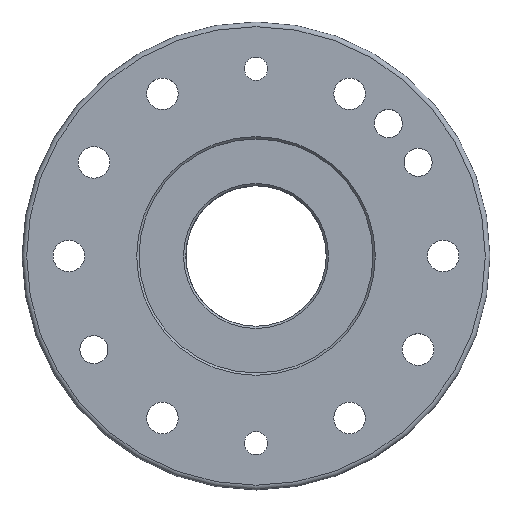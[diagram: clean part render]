
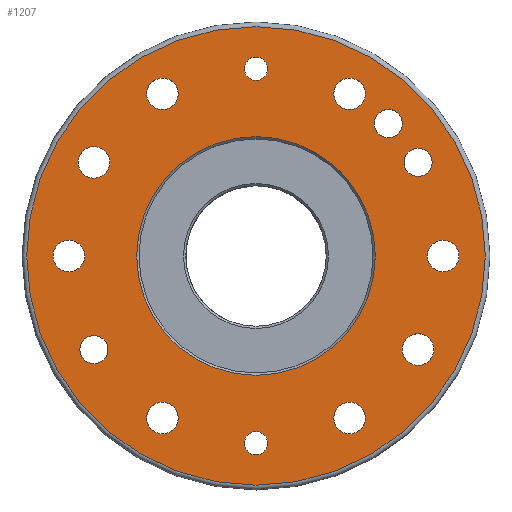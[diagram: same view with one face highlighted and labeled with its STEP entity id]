
A CAD part, top view. The second image highlights one B-rep face of the part: STEP entity #1207.
In plain terms, the highlighted planar face has unit normal (0, 0, 1).
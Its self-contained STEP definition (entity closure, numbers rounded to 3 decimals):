
#68=FACE_BOUND('',#217,.T.);
#69=FACE_BOUND('',#218,.T.);
#70=FACE_BOUND('',#219,.T.);
#71=FACE_BOUND('',#220,.T.);
#72=FACE_BOUND('',#221,.T.);
#73=FACE_BOUND('',#222,.T.);
#74=FACE_BOUND('',#223,.T.);
#75=FACE_BOUND('',#224,.T.);
#76=FACE_BOUND('',#225,.T.);
#77=FACE_BOUND('',#226,.T.);
#78=FACE_BOUND('',#227,.T.);
#79=FACE_BOUND('',#228,.T.);
#80=FACE_BOUND('',#229,.T.);
#81=FACE_BOUND('',#230,.T.);
#92=PLANE('',#1359);
#135=FACE_OUTER_BOUND('',#216,.T.);
#216=EDGE_LOOP('',(#917,#918));
#217=EDGE_LOOP('',(#919));
#218=EDGE_LOOP('',(#920));
#219=EDGE_LOOP('',(#921));
#220=EDGE_LOOP('',(#922));
#221=EDGE_LOOP('',(#923));
#222=EDGE_LOOP('',(#924));
#223=EDGE_LOOP('',(#925));
#224=EDGE_LOOP('',(#926));
#225=EDGE_LOOP('',(#927));
#226=EDGE_LOOP('',(#928));
#227=EDGE_LOOP('',(#929));
#228=EDGE_LOOP('',(#930));
#229=EDGE_LOOP('',(#931));
#230=EDGE_LOOP('',(#932));
#359=CIRCLE('',#1258,6.05);
#362=CIRCLE('',#1262,6.);
#365=CIRCLE('',#1266,6.);
#371=CIRCLE('',#1275,6.75);
#377=CIRCLE('',#1284,6.75);
#383=CIRCLE('',#1293,6.75);
#389=CIRCLE('',#1302,6.75);
#395=CIRCLE('',#1311,6.75);
#401=CIRCLE('',#1320,6.75);
#407=CIRCLE('',#1329,6.75);
#413=CIRCLE('',#1338,6.75);
#428=CIRCLE('',#1357,98.);
#429=CIRCLE('',#1358,98.);
#430=CIRCLE('',#1360,51.);
#431=CIRCLE('',#1361,5.);
#432=CIRCLE('',#1362,5.);
#458=VERTEX_POINT('',#1798);
#461=VERTEX_POINT('',#1806);
#464=VERTEX_POINT('',#1814);
#470=VERTEX_POINT('',#1831);
#476=VERTEX_POINT('',#1848);
#482=VERTEX_POINT('',#1865);
#488=VERTEX_POINT('',#1882);
#494=VERTEX_POINT('',#1899);
#500=VERTEX_POINT('',#1916);
#506=VERTEX_POINT('',#1933);
#512=VERTEX_POINT('',#1950);
#525=VERTEX_POINT('',#1983);
#526=VERTEX_POINT('',#1985);
#527=VERTEX_POINT('',#1989);
#528=VERTEX_POINT('',#1991);
#529=VERTEX_POINT('',#1993);
#581=EDGE_CURVE('',#458,#458,#359,.T.);
#585=EDGE_CURVE('',#461,#461,#362,.T.);
#589=EDGE_CURVE('',#464,#464,#365,.T.);
#597=EDGE_CURVE('',#470,#470,#371,.T.);
#605=EDGE_CURVE('',#476,#476,#377,.T.);
#613=EDGE_CURVE('',#482,#482,#383,.T.);
#621=EDGE_CURVE('',#488,#488,#389,.T.);
#629=EDGE_CURVE('',#494,#494,#395,.T.);
#637=EDGE_CURVE('',#500,#500,#401,.T.);
#645=EDGE_CURVE('',#506,#506,#407,.T.);
#653=EDGE_CURVE('',#512,#512,#413,.T.);
#669=EDGE_CURVE('',#525,#526,#428,.T.);
#670=EDGE_CURVE('',#526,#525,#429,.T.);
#671=EDGE_CURVE('',#527,#527,#430,.T.);
#672=EDGE_CURVE('',#528,#528,#431,.T.);
#673=EDGE_CURVE('',#529,#529,#432,.T.);
#917=ORIENTED_EDGE('',*,*,#670,.F.);
#918=ORIENTED_EDGE('',*,*,#669,.F.);
#919=ORIENTED_EDGE('',*,*,#581,.T.);
#920=ORIENTED_EDGE('',*,*,#585,.T.);
#921=ORIENTED_EDGE('',*,*,#589,.T.);
#922=ORIENTED_EDGE('',*,*,#597,.T.);
#923=ORIENTED_EDGE('',*,*,#605,.T.);
#924=ORIENTED_EDGE('',*,*,#613,.T.);
#925=ORIENTED_EDGE('',*,*,#621,.T.);
#926=ORIENTED_EDGE('',*,*,#629,.T.);
#927=ORIENTED_EDGE('',*,*,#637,.T.);
#928=ORIENTED_EDGE('',*,*,#645,.T.);
#929=ORIENTED_EDGE('',*,*,#653,.T.);
#930=ORIENTED_EDGE('',*,*,#671,.F.);
#931=ORIENTED_EDGE('',*,*,#672,.T.);
#932=ORIENTED_EDGE('',*,*,#673,.T.);
#1207=ADVANCED_FACE('',(#135,#68,#69,#70,#71,#72,#73,#74,#75,#76,#77,#78,
#79,#80,#81),#92,.T.);
#1258=AXIS2_PLACEMENT_3D('',#1800,#1426,#1427);
#1262=AXIS2_PLACEMENT_3D('',#1808,#1435,#1436);
#1266=AXIS2_PLACEMENT_3D('',#1816,#1444,#1445);
#1275=AXIS2_PLACEMENT_3D('',#1833,#1464,#1465);
#1284=AXIS2_PLACEMENT_3D('',#1850,#1484,#1485);
#1293=AXIS2_PLACEMENT_3D('',#1867,#1504,#1505);
#1302=AXIS2_PLACEMENT_3D('',#1884,#1524,#1525);
#1311=AXIS2_PLACEMENT_3D('',#1901,#1544,#1545);
#1320=AXIS2_PLACEMENT_3D('',#1918,#1564,#1565);
#1329=AXIS2_PLACEMENT_3D('',#1935,#1584,#1585);
#1338=AXIS2_PLACEMENT_3D('',#1952,#1604,#1605);
#1357=AXIS2_PLACEMENT_3D('',#1986,#1643,#1644);
#1358=AXIS2_PLACEMENT_3D('',#1987,#1645,#1646);
#1359=AXIS2_PLACEMENT_3D('',#1988,#1647,#1648);
#1360=AXIS2_PLACEMENT_3D('',#1990,#1649,#1650);
#1361=AXIS2_PLACEMENT_3D('',#1992,#1651,#1652);
#1362=AXIS2_PLACEMENT_3D('',#1994,#1653,#1654);
#1426=DIRECTION('center_axis',(0.,0.,
-1.));
#1427=DIRECTION('ref_axis',(0.,1.,0.));
#1435=DIRECTION('center_axis',(0.,0.,
-1.));
#1436=DIRECTION('ref_axis',(1.,0.,0.));
#1444=DIRECTION('center_axis',(0.,0.,
-1.));
#1445=DIRECTION('ref_axis',(1.,0.,0.));
#1464=DIRECTION('center_axis',(0.,0.,
-1.));
#1465=DIRECTION('ref_axis',(1.,0.,0.));
#1484=DIRECTION('center_axis',(0.,0.,
-1.));
#1485=DIRECTION('ref_axis',(1.,0.,0.));
#1504=DIRECTION('center_axis',(0.,0.,
-1.));
#1505=DIRECTION('ref_axis',(1.,0.,0.));
#1524=DIRECTION('center_axis',(0.,0.,
-1.));
#1525=DIRECTION('ref_axis',(1.,0.,0.));
#1544=DIRECTION('center_axis',(0.,0.,
-1.));
#1545=DIRECTION('ref_axis',(1.,0.,0.));
#1564=DIRECTION('center_axis',(0.,0.,
-1.));
#1565=DIRECTION('ref_axis',(1.,0.,0.));
#1584=DIRECTION('center_axis',(0.,0.,
-1.));
#1585=DIRECTION('ref_axis',(1.,0.,0.));
#1604=DIRECTION('center_axis',(0.,0.,
-1.));
#1605=DIRECTION('ref_axis',(1.,0.,0.));
#1643=DIRECTION('center_axis',(0.,0.,
-1.));
#1644=DIRECTION('ref_axis',(0.,1.,0.));
#1645=DIRECTION('center_axis',(0.,0.,
-1.));
#1646=DIRECTION('ref_axis',(0.,1.,0.));
#1647=DIRECTION('center_axis',(0.,0.,
1.));
#1648=DIRECTION('ref_axis',(-1.,0.,0.));
#1649=DIRECTION('center_axis',(0.,0.,
1.));
#1650=DIRECTION('ref_axis',(0.,1.,0.));
#1651=DIRECTION('center_axis',(0.,0.,
-1.));
#1652=DIRECTION('ref_axis',(-1.,0.,0.));
#1653=DIRECTION('center_axis',(0.,0.,
-1.));
#1654=DIRECTION('ref_axis',(-1.,0.,0.));
#1798=CARTESIAN_POINT('',(56.569,50.519,209.438));
#1800=CARTESIAN_POINT('Origin',(56.569,56.569,209.438));
#1806=CARTESIAN_POINT('',(63.282,40.,209.438));
#1808=CARTESIAN_POINT('Origin',(69.282,40.,209.438));
#1814=CARTESIAN_POINT('',(-75.282,-40.,209.438));
#1816=CARTESIAN_POINT('Origin',(-69.282,-40.,209.438));
#1831=CARTESIAN_POINT('',(33.25,-69.282,209.438));
#1833=CARTESIAN_POINT('Origin',(40.,-69.282,209.438));
#1848=CARTESIAN_POINT('',(-86.75,0.,209.438));
#1850=CARTESIAN_POINT('Origin',(-80.,0.,209.438));
#1865=CARTESIAN_POINT('',(-46.75,69.282,209.438));
#1867=CARTESIAN_POINT('Origin',(-40.,69.282,209.438));
#1882=CARTESIAN_POINT('',(73.25,0.,209.438));
#1884=CARTESIAN_POINT('Origin',(80.,0.,209.438));
#1899=CARTESIAN_POINT('',(33.25,69.282,209.438));
#1901=CARTESIAN_POINT('Origin',(40.,69.282,209.438));
#1916=CARTESIAN_POINT('',(-76.032,40.,209.438));
#1918=CARTESIAN_POINT('Origin',(-69.282,40.,209.438));
#1933=CARTESIAN_POINT('',(-46.75,-69.282,209.438));
#1935=CARTESIAN_POINT('Origin',(-40.,-69.282,209.438));
#1950=CARTESIAN_POINT('',(62.532,-40.,209.438));
#1952=CARTESIAN_POINT('Origin',(69.282,-40.,209.438));
#1983=CARTESIAN_POINT('',(-98.,0.,209.438));
#1985=CARTESIAN_POINT('',(0.,-98.,209.438));
#1986=CARTESIAN_POINT('Origin',(0.,0.,
209.438));
#1987=CARTESIAN_POINT('Origin',(0.,0.,
209.438));
#1988=CARTESIAN_POINT('Origin',(0.,-75.,
209.438));
#1989=CARTESIAN_POINT('',(0.,-51.,209.438));
#1990=CARTESIAN_POINT('Origin',(0.,0.,
209.438));
#1991=CARTESIAN_POINT('',(5.,80.,209.438));
#1992=CARTESIAN_POINT('Origin',(0.,80.,209.438));
#1993=CARTESIAN_POINT('',(5.,-80.,209.438));
#1994=CARTESIAN_POINT('Origin',(0.,-80.,
209.438));
